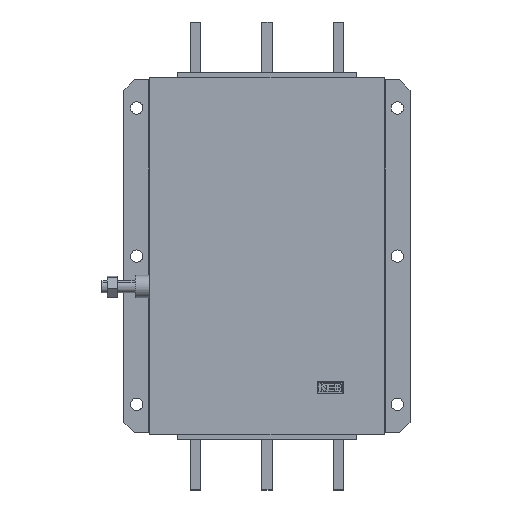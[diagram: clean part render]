
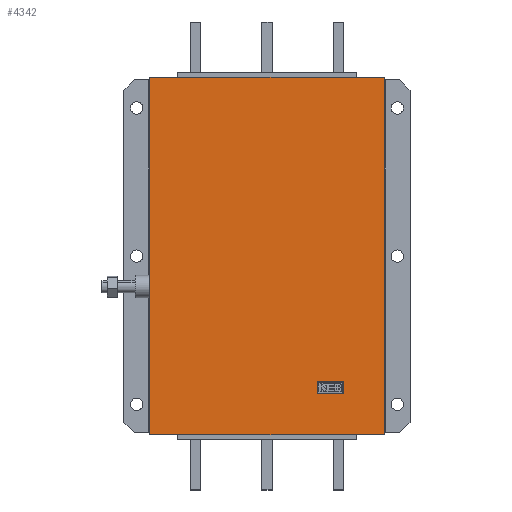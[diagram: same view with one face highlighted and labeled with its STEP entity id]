
A CAD part, top view. The second image highlights one B-rep face of the part: STEP entity #4342.
In plain terms, the highlighted planar face has unit normal (0, 0, 1).
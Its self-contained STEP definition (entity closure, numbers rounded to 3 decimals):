
#86 = EDGE_CURVE ( 'NONE', #4272, #779, #1575, .T. ) ;
#133 = CARTESIAN_POINT ( 'NONE',  ( 74., -313.25, 145. ) ) ;
#162 = CARTESIAN_POINT ( 'NONE',  ( 115., -354.25, 145. ) ) ;
#216 = VERTEX_POINT ( 'NONE', #4279 ) ;
#217 = CARTESIAN_POINT ( 'NONE',  ( 115., -4.25, 145. ) ) ;
#224 = DIRECTION ( 'NONE',  ( 0., 1., 0. ) ) ;
#240 = CARTESIAN_POINT ( 'NONE',  ( 50., -313.25, 145. ) ) ;
#287 = EDGE_LOOP ( 'NONE', ( #3325, #4192, #1576, #4564 ) ) ;
#309 = VECTOR ( 'NONE', #3891, 1000. ) ;
#310 = FACE_OUTER_BOUND ( 'NONE', #287, .T. ) ;
#320 = ORIENTED_EDGE ( 'NONE', *, *, #3765, .T. ) ;
#366 = CARTESIAN_POINT ( 'NONE',  ( 74., -314.25, 145. ) ) ;
#383 = EDGE_CURVE ( 'NONE', #5210, #661, #2094, .T. ) ;
#414 = VECTOR ( 'NONE', #2867, 1000. ) ;
#458 = CARTESIAN_POINT ( 'NONE',  ( 75., -313.25, 145. ) ) ;
#469 = AXIS2_PLACEMENT_3D ( 'NONE', #133, #1996, #4021 ) ;
#545 = CARTESIAN_POINT ( 'NONE',  ( 50., -303.25, 145. ) ) ;
#559 = CIRCLE ( 'NONE', #4783, 1. ) ;
#568 = ORIENTED_EDGE ( 'NONE', *, *, #86, .T. ) ;
#582 = CARTESIAN_POINT ( 'NONE',  ( 74., -314.25, 145. ) ) ;
#615 = DIRECTION ( 'NONE',  ( 0., 1., 0. ) ) ;
#661 = VERTEX_POINT ( 'NONE', #217 ) ;
#697 = CARTESIAN_POINT ( 'NONE',  ( -115., -4.25, 145. ) ) ;
#722 = VERTEX_POINT ( 'NONE', #2946 ) ;
#779 = VERTEX_POINT ( 'NONE', #4018 ) ;
#852 = VECTOR ( 'NONE', #615, 1000. ) ;
#856 = CARTESIAN_POINT ( 'NONE',  ( -115., -626.142, 145. ) ) ;
#952 = EDGE_CURVE ( 'NONE', #722, #4272, #5432, .T. ) ;
#975 = VERTEX_POINT ( 'NONE', #5853 ) ;
#1067 = CARTESIAN_POINT ( 'NONE',  ( -115., -4.25, 145. ) ) ;
#1088 = VECTOR ( 'NONE', #3282, 1000. ) ;
#1179 = VECTOR ( 'NONE', #4825, 1000. ) ;
#1288 = ORIENTED_EDGE ( 'NONE', *, *, #5231, .T. ) ;
#1414 = LINE ( 'NONE', #5265, #414 ) ;
#1415 = ORIENTED_EDGE ( 'NONE', *, *, #6027, .T. ) ;
#1421 = VERTEX_POINT ( 'NONE', #2149 ) ;
#1523 = DIRECTION ( 'NONE',  ( 0., 0., -1. ) ) ;
#1534 = CIRCLE ( 'NONE', #3695, 1. ) ;
#1536 = DIRECTION ( 'NONE',  ( 1., 0., 0. ) ) ;
#1560 = LINE ( 'NONE', #697, #309 ) ;
#1575 = LINE ( 'NONE', #2557, #5537 ) ;
#1576 = ORIENTED_EDGE ( 'NONE', *, *, #1866, .F. ) ;
#1627 = DIRECTION ( 'NONE',  ( 0., 0., -1. ) ) ;
#1629 = CARTESIAN_POINT ( 'NONE',  ( 75., -303.25, 145. ) ) ;
#1685 = FACE_BOUND ( 'NONE', #1702, .T. ) ;
#1688 = DIRECTION ( 'NONE',  ( 1., 0., 0. ) ) ;
#1702 = EDGE_LOOP ( 'NONE', ( #568, #1415, #2200, #1288, #320, #3294, #4198, #2848 ) ) ;
#1804 = EDGE_CURVE ( 'NONE', #5443, #722, #4798, .T. ) ;
#1866 = EDGE_CURVE ( 'NONE', #1882, #661, #1560, .T. ) ;
#1882 = VERTEX_POINT ( 'NONE', #1067 ) ;
#1959 = EDGE_CURVE ( 'NONE', #5210, #216, #5279, .T. ) ;
#1996 = DIRECTION ( 'NONE',  ( 0., 0., -1. ) ) ;
#2053 = CARTESIAN_POINT ( 'NONE',  ( -115., -626.142, 145. ) ) ;
#2094 = LINE ( 'NONE', #4923, #4878 ) ;
#2149 = CARTESIAN_POINT ( 'NONE',  ( 74., -302.25, 145. ) ) ;
#2200 = ORIENTED_EDGE ( 'NONE', *, *, #3991, .T. ) ;
#2449 = DIRECTION ( 'NONE',  ( 1., 0., 0. ) ) ;
#2557 = CARTESIAN_POINT ( 'NONE',  ( 49., -313.25, 145. ) ) ;
#2648 = VERTEX_POINT ( 'NONE', #1629 ) ;
#2848 = ORIENTED_EDGE ( 'NONE', *, *, #952, .T. ) ;
#2867 = DIRECTION ( 'NONE',  ( 0., -1., 0. ) ) ;
#2946 = CARTESIAN_POINT ( 'NONE',  ( 50., -314.25, 145. ) ) ;
#3106 = DIRECTION ( 'NONE',  ( 0., 0., 1. ) ) ;
#3282 = DIRECTION ( 'NONE',  ( -1., 0., 0. ) ) ;
#3294 = ORIENTED_EDGE ( 'NONE', *, *, #4290, .T. ) ;
#3325 = ORIENTED_EDGE ( 'NONE', *, *, #1959, .F. ) ;
#3375 = AXIS2_PLACEMENT_3D ( 'NONE', #240, #1523, #2449 ) ;
#3436 = CARTESIAN_POINT ( 'NONE',  ( -115., -354.25, 145. ) ) ;
#3437 = LINE ( 'NONE', #2053, #852 ) ;
#3561 = DIRECTION ( 'NONE',  ( 0., -1., 0. ) ) ;
#3565 = DIRECTION ( 'NONE',  ( 1., 0., 0. ) ) ;
#3658 = LINE ( 'NONE', #4588, #5407 ) ;
#3695 = AXIS2_PLACEMENT_3D ( 'NONE', #5739, #5801, #1536 ) ;
#3765 = EDGE_CURVE ( 'NONE', #2648, #5563, #1414, .T. ) ;
#3891 = DIRECTION ( 'NONE',  ( 1., 0., 0. ) ) ;
#3991 = EDGE_CURVE ( 'NONE', #975, #1421, #3658, .T. ) ;
#4002 = DIRECTION ( 'NONE',  ( 0., 1., 0. ) ) ;
#4018 = CARTESIAN_POINT ( 'NONE',  ( 49., -303.25, 145. ) ) ;
#4021 = DIRECTION ( 'NONE',  ( -1., 0., 0. ) ) ;
#4192 = ORIENTED_EDGE ( 'NONE', *, *, #383, .T. ) ;
#4198 = ORIENTED_EDGE ( 'NONE', *, *, #1804, .T. ) ;
#4272 = VERTEX_POINT ( 'NONE', #4336 ) ;
#4279 = CARTESIAN_POINT ( 'NONE',  ( -115., -354.25, 145. ) ) ;
#4290 = EDGE_CURVE ( 'NONE', #5563, #5443, #5173, .T. ) ;
#4336 = CARTESIAN_POINT ( 'NONE',  ( 49., -313.25, 145. ) ) ;
#4342 = ADVANCED_FACE ( 'NONE', ( #310, #1685 ), #4607, .T. ) ;
#4495 = EDGE_CURVE ( 'NONE', #216, #1882, #3437, .T. ) ;
#4564 = ORIENTED_EDGE ( 'NONE', *, *, #4495, .F. ) ;
#4585 = AXIS2_PLACEMENT_3D ( 'NONE', #856, #3106, #3561 ) ;
#4588 = CARTESIAN_POINT ( 'NONE',  ( 74., -302.25, 145. ) ) ;
#4607 = PLANE ( 'NONE',  #4585 ) ;
#4783 = AXIS2_PLACEMENT_3D ( 'NONE', #545, #1627, #1688 ) ;
#4798 = LINE ( 'NONE', #582, #1088 ) ;
#4825 = DIRECTION ( 'NONE',  ( -1., 0., 0. ) ) ;
#4878 = VECTOR ( 'NONE', #224, 1000. ) ;
#4923 = CARTESIAN_POINT ( 'NONE',  ( 115., -626.142, 145. ) ) ;
#5173 = CIRCLE ( 'NONE', #469, 1. ) ;
#5210 = VERTEX_POINT ( 'NONE', #162 ) ;
#5231 = EDGE_CURVE ( 'NONE', #1421, #2648, #1534, .T. ) ;
#5265 = CARTESIAN_POINT ( 'NONE',  ( 75., -313.25, 145. ) ) ;
#5279 = LINE ( 'NONE', #3436, #1179 ) ;
#5407 = VECTOR ( 'NONE', #3565, 1000. ) ;
#5432 = CIRCLE ( 'NONE', #3375, 1. ) ;
#5443 = VERTEX_POINT ( 'NONE', #366 ) ;
#5537 = VECTOR ( 'NONE', #4002, 1000. ) ;
#5563 = VERTEX_POINT ( 'NONE', #458 ) ;
#5739 = CARTESIAN_POINT ( 'NONE',  ( 74., -303.25, 145. ) ) ;
#5801 = DIRECTION ( 'NONE',  ( 0., 0., -1. ) ) ;
#5853 = CARTESIAN_POINT ( 'NONE',  ( 50., -302.25, 145. ) ) ;
#6027 = EDGE_CURVE ( 'NONE', #779, #975, #559, .T. ) ;
